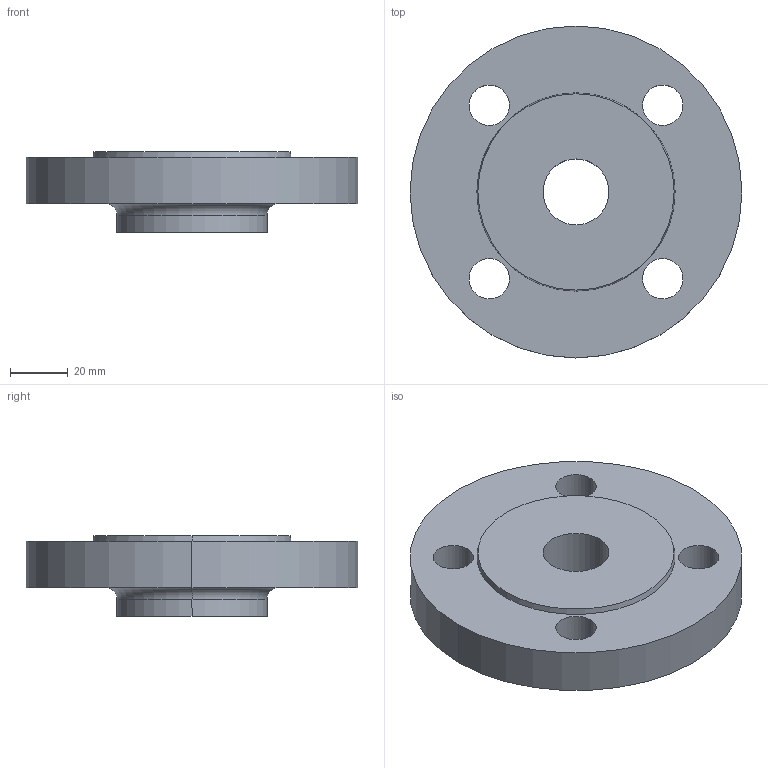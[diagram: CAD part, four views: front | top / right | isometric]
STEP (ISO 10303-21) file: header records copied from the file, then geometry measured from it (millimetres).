
FILE_DESCRIPTION (( 'STEP AP214' ), '1' );
FILE_NAME ('PN40 DN25 Type 13 - Type B Face.STEP', '2018-12-29T20:25:58', ( '' ), ( '' ), 'SwSTEP 2.0', 'SolidWorks 2019', '' );
FILE_SCHEMA (( 'AUTOMOTIVE_DESIGN' ));
Length unit declared in the file: millimetre
Products named in the file (1): PN40 DN25 Type 13 - Type B Face
Bounding box: 115 x 115 x 28 mm (x, y, z)
Volume: 174027.5 mm3; surface area: 31047.9 mm2
Topology: 1 solids, 1 shells, 22 faces, 52 edges, 34 vertices
Faces by surface type: cylinder 14, plane 4, torus 2, cone 2
Entity records: 710 total; most frequent: DIRECTION 134, CARTESIAN_POINT 109, ORIENTED_EDGE 104, AXIS2_PLACEMENT_3D 59, EDGE_CURVE 52, CIRCLE 36, VERTEX_POINT 34, EDGE_LOOP 34
